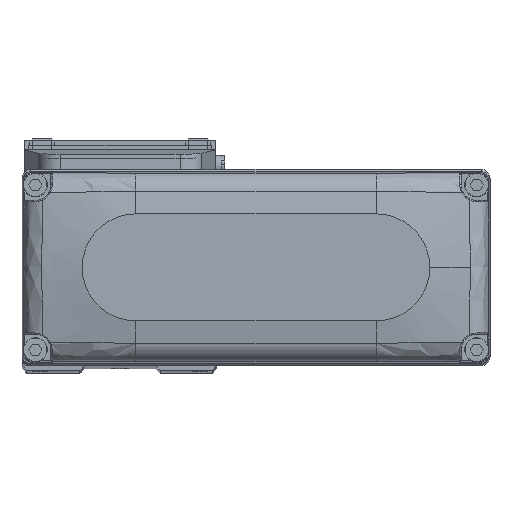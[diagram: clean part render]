
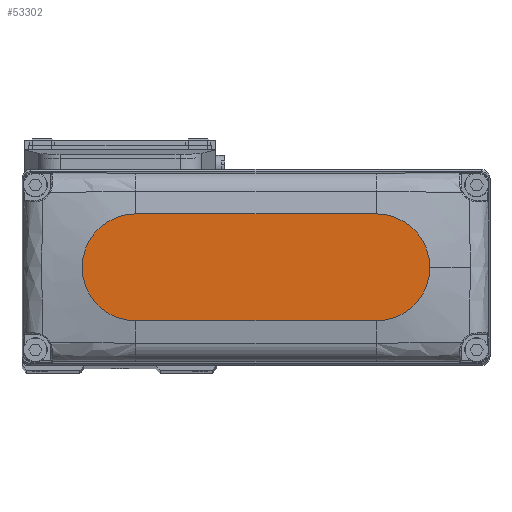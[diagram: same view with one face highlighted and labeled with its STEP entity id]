
A CAD part, top view. The second image highlights one B-rep face of the part: STEP entity #53302.
In plain terms, the highlighted planar face has unit normal (0, 0, 1).
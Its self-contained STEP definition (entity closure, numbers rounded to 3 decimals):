
#1683 = DIRECTION ( 'NONE',  ( 1., 0., 0. ) ) ;
#2213 = DIRECTION ( 'NONE',  ( -1., 0., 0. ) ) ;
#2473 = VERTEX_POINT ( 'NONE', #13114 ) ;
#2651 = CARTESIAN_POINT ( 'NONE',  ( -27., -12., 25. ) ) ;
#9197 = CARTESIAN_POINT ( 'NONE',  ( -27., 12., 25. ) ) ;
#9815 = CIRCLE ( 'NONE', #53559, 12. ) ;
#12266 = CIRCLE ( 'NONE', #56015, 12. ) ;
#13058 = VERTEX_POINT ( 'NONE', #72623 ) ;
#13114 = CARTESIAN_POINT ( 'NONE',  ( 27., -12., 25. ) ) ;
#13648 = DIRECTION ( 'NONE',  ( 1., 0., 0. ) ) ;
#14314 = CIRCLE ( 'NONE', #68051, 12. ) ;
#14472 = ORIENTED_EDGE ( 'NONE', *, *, #75379, .T. ) ;
#18198 = CARTESIAN_POINT ( 'NONE',  ( -27., 0., 25. ) ) ;
#18587 = EDGE_CURVE ( 'NONE', #21312, #18620, #31947, .T. ) ;
#18620 = VERTEX_POINT ( 'NONE', #9197 ) ;
#19524 = AXIS2_PLACEMENT_3D ( 'NONE', #23577, #47461, #71307 ) ;
#21266 = EDGE_CURVE ( 'NONE', #18620, #13058, #12266, .T. ) ;
#21312 = VERTEX_POINT ( 'NONE', #54609 ) ;
#23577 = CARTESIAN_POINT ( 'NONE',  ( 0., 0., 25. ) ) ;
#26515 = DIRECTION ( 'NONE',  ( 1., 0., 0. ) ) ;
#31417 = CARTESIAN_POINT ( 'NONE',  ( 27., 0., 25. ) ) ;
#31473 = ORIENTED_EDGE ( 'NONE', *, *, #18587, .T. ) ;
#31947 = LINE ( 'NONE', #55822, #31991 ) ;
#31991 = VECTOR ( 'NONE', #2213, 1000. ) ;
#41413 = CARTESIAN_POINT ( 'NONE',  ( 39., 0., 25. ) ) ;
#42075 = DIRECTION ( 'NONE',  ( 0., 0., 1. ) ) ;
#43395 = CARTESIAN_POINT ( 'NONE',  ( 27., 0., 25. ) ) ;
#47461 = DIRECTION ( 'NONE',  ( 0., 0., 1. ) ) ;
#48714 = EDGE_CURVE ( 'NONE', #2473, #49464, #14314, .T. ) ;
#49464 = VERTEX_POINT ( 'NONE', #41413 ) ;
#53302 = ADVANCED_FACE ( 'NONE', ( #53333 ), #77194, .T. ) ;
#53333 = FACE_OUTER_BOUND ( 'NONE', #63598, .T. ) ;
#53559 = AXIS2_PLACEMENT_3D ( 'NONE', #43395, #67268, #13648 ) ;
#54609 = CARTESIAN_POINT ( 'NONE',  ( 27., 12., 25. ) ) ;
#54732 = ORIENTED_EDGE ( 'NONE', *, *, #66713, .T. ) ;
#55293 = DIRECTION ( 'NONE',  ( 0., 0., 1. ) ) ;
#55822 = CARTESIAN_POINT ( 'NONE',  ( -27., 12., 25. ) ) ;
#56015 = AXIS2_PLACEMENT_3D ( 'NONE', #18198, #42075, #65961 ) ;
#56257 = LINE ( 'NONE', #2651, #65277 ) ;
#58209 = ORIENTED_EDGE ( 'NONE', *, *, #21266, .T. ) ;
#62125 = ORIENTED_EDGE ( 'NONE', *, *, #48714, .T. ) ;
#63598 = EDGE_LOOP ( 'NONE', ( #31473, #58209, #14472, #62125, #54732 ) ) ;
#65277 = VECTOR ( 'NONE', #26515, 1000. ) ;
#65961 = DIRECTION ( 'NONE',  ( 1., 0., 0. ) ) ;
#66713 = EDGE_CURVE ( 'NONE', #49464, #21312, #9815, .T. ) ;
#67268 = DIRECTION ( 'NONE',  ( 0., 0., 1. ) ) ;
#68051 = AXIS2_PLACEMENT_3D ( 'NONE', #31417, #55293, #1683 ) ;
#71307 = DIRECTION ( 'NONE',  ( 1., 0., 0. ) ) ;
#72623 = CARTESIAN_POINT ( 'NONE',  ( -27., -12., 25. ) ) ;
#75379 = EDGE_CURVE ( 'NONE', #13058, #2473, #56257, .T. ) ;
#77194 = PLANE ( 'NONE',  #19524 ) ;
